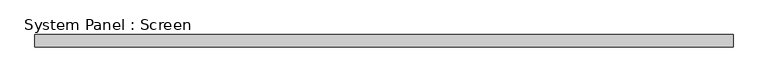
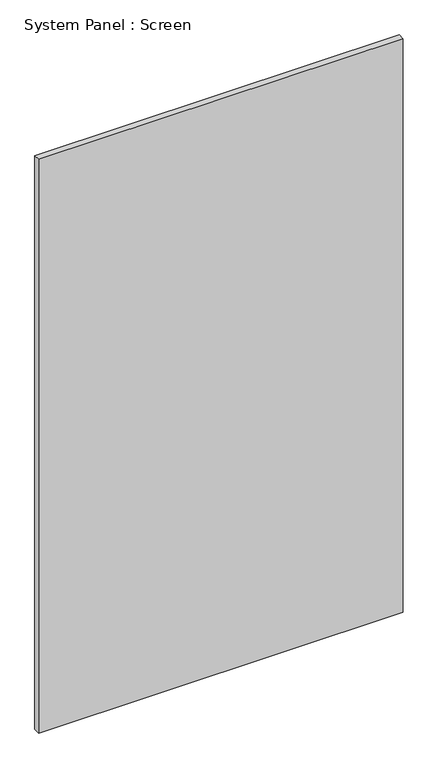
"""IFC4 building model written with IfcOpenShell, lengths in millimetres: plate geometry, System Panel : Screen."""

from ifc_helpers import new_model, si_unit, origin, origin_with_axes, place, context, project, spatial, polyline, outline, extrude, source, transform, mapped, element, save


def system_panel_screen_150f36fd(model_context):
    return source(origin(), model_context, "Body", "SweptSolid", [
        extrude(outline(polyline([(730.25, -12.7), (-730.25, -12.7), (-730.25, 12.7), (730.25, 12.7), (730.25, -12.7)])), origin_with_axes(), (0.0, 0.0, 1.0), 2428.24),
    ])


if __name__ == "__main__":
    model = new_model("IFC4")
    model_context = context("Model", 3, world=origin())
    ifc_project = project(units=[si_unit("LENGTHUNIT", "METRE", prefix="MILLI")], contexts=[model_context])
    site = spatial("IfcSite", under=ifc_project)
    building = spatial("IfcBuilding", under=site)
    placement = place(None, origin())
    system_panel_screen_shape = system_panel_screen_150f36fd(model_context)
    element("IfcPlate", 1, ObjectType="System Panel : Screen", at=placement, inside=building, context=model_context, shape_type="MappedRepresentation", body=[
        mapped(system_panel_screen_shape, transform((0.0, 0.0, 0.0), x_axis=(1.0, 0.0, 0.0), y_axis=(0.0, 1.0, 0.0), z_axis=(0.0, 0.0, 1.0))),
    ])
    save(model, "model.ifc")
